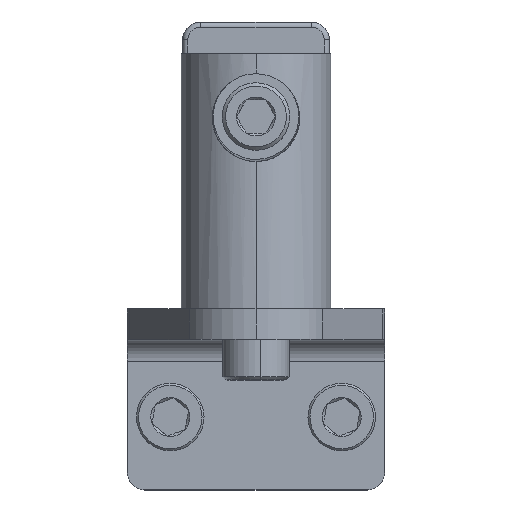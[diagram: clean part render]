
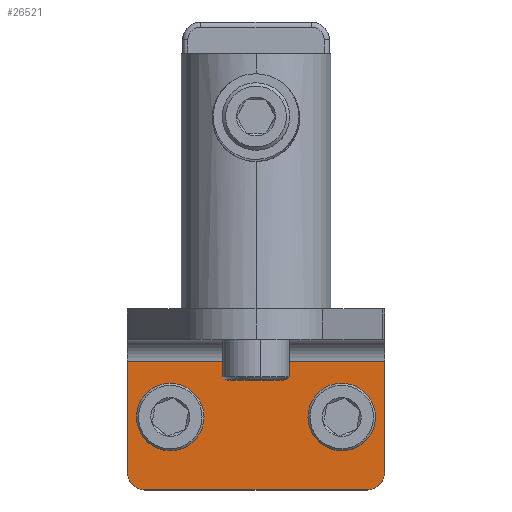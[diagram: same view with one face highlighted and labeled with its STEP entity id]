
A CAD part, top view. The second image highlights one B-rep face of the part: STEP entity #26521.
In plain terms, the highlighted planar face has unit normal (0, 0, 1).
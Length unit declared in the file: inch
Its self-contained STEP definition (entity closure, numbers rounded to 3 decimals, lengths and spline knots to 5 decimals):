
#26101=DIRECTION('',(0.,-1.,0.));
#26102=VECTOR('',#26101,0.65);
#26103=CARTESIAN_POINT('',(-0.75,0.275,0.));
#26104=LINE('',#26103,#26102);
#26105=CARTESIAN_POINT('',(0.65,0.275,0.));
#26106=DIRECTION('',(0.,0.,-1.));
#26107=DIRECTION('',(0.,1.,0.));
#26108=AXIS2_PLACEMENT_3D('',#26105,#26106,#26107);
#26110=CARTESIAN_POINT('',(-0.65,0.275,0.));
#26111=DIRECTION('',(0.,0.,-1.));
#26112=DIRECTION('',(-1.,0.,0.));
#26113=AXIS2_PLACEMENT_3D('',#26110,#26111,#26112);
#26115=CARTESIAN_POINT('',(-0.5,-0.05,0.));
#26116=DIRECTION('',(0.,0.,1.));
#26117=DIRECTION('',(1.,0.,0.));
#26118=AXIS2_PLACEMENT_3D('',#26115,#26116,#26117);
#26120=CARTESIAN_POINT('',(-0.5,-0.05,0.));
#26121=DIRECTION('',(0.,0.,1.));
#26122=DIRECTION('',(-1.,0.,0.));
#26123=AXIS2_PLACEMENT_3D('',#26120,#26121,#26122);
#26125=CARTESIAN_POINT('',(0.5,-0.05,0.));
#26126=DIRECTION('',(0.,0.,1.));
#26127=DIRECTION('',(1.,0.,0.));
#26128=AXIS2_PLACEMENT_3D('',#26125,#26126,#26127);
#26130=CARTESIAN_POINT('',(0.5,-0.05,0.));
#26131=DIRECTION('',(0.,0.,1.));
#26132=DIRECTION('',(-1.,0.,0.));
#26133=AXIS2_PLACEMENT_3D('',#26130,#26131,#26132);
#26135=DIRECTION('',(-1.,0.,0.));
#26136=VECTOR('',#26135,1.3);
#26137=CARTESIAN_POINT('',(0.65,0.375,0.));
#26138=LINE('',#26137,#26136);
#26151=DIRECTION('',(0.,1.,0.));
#26152=VECTOR('',#26151,0.65);
#26153=CARTESIAN_POINT('',(0.75,-0.375,0.));
#26154=LINE('',#26153,#26152);
#26165=DIRECTION('',(1.,0.,0.));
#26166=VECTOR('',#26165,1.5);
#26167=CARTESIAN_POINT('',(-0.75,-0.375,0.));
#26168=LINE('',#26167,#26166);
#26287=CARTESIAN_POINT('',(-0.75,-0.375,0.));
#26288=VERTEX_POINT('',#26287);
#26307=CARTESIAN_POINT('',(-0.75,0.275,0.));
#26308=VERTEX_POINT('',#26307);
#26309=CARTESIAN_POINT('',(0.65,0.375,0.));
#26310=CARTESIAN_POINT('',(-0.65,0.375,0.));
#26311=VERTEX_POINT('',#26309);
#26312=VERTEX_POINT('',#26310);
#26313=CARTESIAN_POINT('',(0.75,0.275,0.));
#26314=VERTEX_POINT('',#26313);
#26315=CARTESIAN_POINT('',(0.75,-0.375,0.));
#26316=VERTEX_POINT('',#26315);
#26317=CARTESIAN_POINT('',(-0.37402,-0.05,0.));
#26318=CARTESIAN_POINT('',(-0.62598,-0.05,0.));
#26319=VERTEX_POINT('',#26317);
#26320=VERTEX_POINT('',#26318);
#26321=CARTESIAN_POINT('',(0.62598,-0.05,0.));
#26322=CARTESIAN_POINT('',(0.37402,-0.05,0.));
#26323=VERTEX_POINT('',#26321);
#26324=VERTEX_POINT('',#26322);
#26491=CARTESIAN_POINT('',(0.,0.,0.));
#26492=DIRECTION('',(0.,0.,1.));
#26493=DIRECTION('',(1.,0.,0.));
#26494=AXIS2_PLACEMENT_3D('',#26491,#26492,#26493);
#26495=PLANE('',#26494);
#26497=ORIENTED_EDGE('',*,*,#26496,.F.);
#26499=ORIENTED_EDGE('',*,*,#26498,.T.);
#26501=ORIENTED_EDGE('',*,*,#26500,.F.);
#26503=ORIENTED_EDGE('',*,*,#26502,.F.);
#26504=ORIENTED_EDGE('',*,*,#26482,.F.);
#26506=ORIENTED_EDGE('',*,*,#26505,.T.);
#26507=EDGE_LOOP('',(#26497,#26499,#26501,#26503,#26504,#26506));
#26508=FACE_OUTER_BOUND('',#26507,.F.);
#26510=ORIENTED_EDGE('',*,*,#26509,.T.);
#26512=ORIENTED_EDGE('',*,*,#26511,.T.);
#26513=EDGE_LOOP('',(#26510,#26512));
#26514=FACE_BOUND('',#26513,.F.);
#26516=ORIENTED_EDGE('',*,*,#26515,.T.);
#26518=ORIENTED_EDGE('',*,*,#26517,.T.);
#26519=EDGE_LOOP('',(#26516,#26518));
#26520=FACE_BOUND('',#26519,.F.);
#26109=CIRCLE('',#26108,0.1);
#26114=CIRCLE('',#26113,0.1);
#26119=CIRCLE('',#26118,0.12598);
#26124=CIRCLE('',#26123,0.12598);
#26129=CIRCLE('',#26128,0.12598);
#26134=CIRCLE('',#26133,0.12598);
#26482=EDGE_CURVE('',#26308,#26288,#26104,.T.);
#26496=EDGE_CURVE('',#26311,#26312,#26138,.T.);
#26498=EDGE_CURVE('',#26311,#26314,#26109,.T.);
#26500=EDGE_CURVE('',#26316,#26314,#26154,.T.);
#26502=EDGE_CURVE('',#26288,#26316,#26168,.T.);
#26505=EDGE_CURVE('',#26308,#26312,#26114,.T.);
#26509=EDGE_CURVE('',#26319,#26320,#26119,.T.);
#26511=EDGE_CURVE('',#26320,#26319,#26124,.T.);
#26515=EDGE_CURVE('',#26323,#26324,#26129,.T.);
#26517=EDGE_CURVE('',#26324,#26323,#26134,.T.);
#26521=ADVANCED_FACE('',(#26508,#26514,#26520),#26495,.T.);
